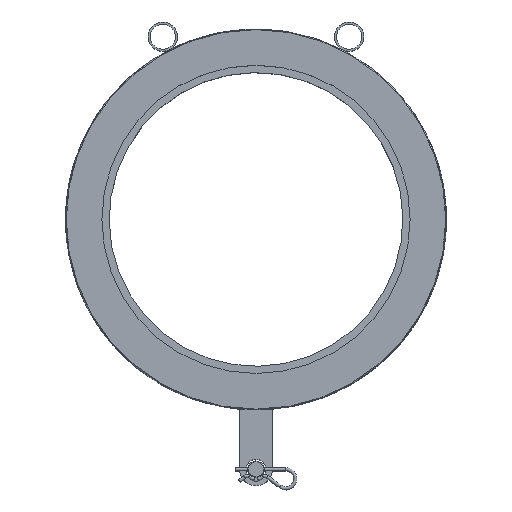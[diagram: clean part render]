
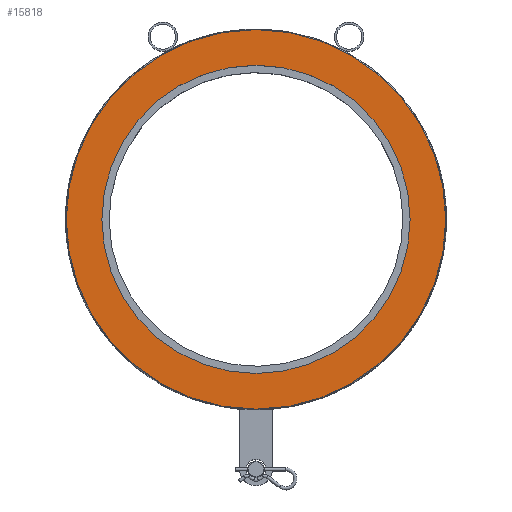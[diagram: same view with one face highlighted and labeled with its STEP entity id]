
A CAD part, top view. The second image highlights one B-rep face of the part: STEP entity #15818.
In plain terms, the highlighted planar face has unit normal (0, 0, 1).
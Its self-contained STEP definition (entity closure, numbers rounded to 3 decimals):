
#505=FACE_BOUND('',#3460,.T.);
#1669=PLANE('',#16702);
#2511=FACE_OUTER_BOUND('',#3459,.T.);
#3459=EDGE_LOOP('',(#14522));
#3460=EDGE_LOOP('',(#14523));
#6111=CIRCLE('',#16698,233.5);
#6112=CIRCLE('',#16700,287.5);
#7649=VERTEX_POINT('',#37000);
#7650=VERTEX_POINT('',#37004);
#9957=EDGE_CURVE('',#7649,#7649,#6111,.T.);
#9959=EDGE_CURVE('',#7650,#7650,#6112,.T.);
#14522=ORIENTED_EDGE('',*,*,#9959,.F.);
#14523=ORIENTED_EDGE('',*,*,#9957,.T.);
#15818=ADVANCED_FACE('',(#2511,#505),#1669,.T.);
#16698=AXIS2_PLACEMENT_3D('',#37001,#19475,#19476);
#16700=AXIS2_PLACEMENT_3D('',#37005,#19480,#19481);
#16702=AXIS2_PLACEMENT_3D('',#37008,#19485,#19486);
#19475=DIRECTION('center_axis',(0.,0.,
-1.));
#19476=DIRECTION('ref_axis',(-1.,0.,0.));
#19480=DIRECTION('center_axis',(0.,0.,
-1.));
#19481=DIRECTION('ref_axis',(-1.,0.,0.));
#19485=DIRECTION('center_axis',(0.,0.,
1.));
#19486=DIRECTION('ref_axis',(-1.,0.,0.));
#37000=CARTESIAN_POINT('',(233.5,0.,140.));
#37001=CARTESIAN_POINT('Origin',(0.,0.,
140.));
#37004=CARTESIAN_POINT('',(287.5,0.,140.));
#37005=CARTESIAN_POINT('Origin',(0.,0.,
140.));
#37008=CARTESIAN_POINT('Origin',(0.,0.,
140.));
